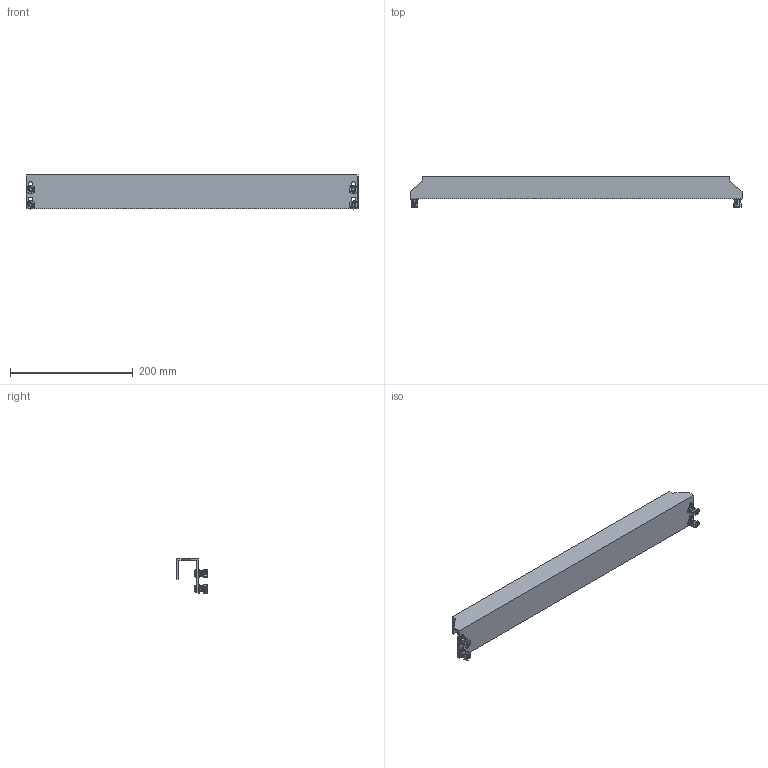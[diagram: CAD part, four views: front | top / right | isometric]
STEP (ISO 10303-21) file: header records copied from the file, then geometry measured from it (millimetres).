
FILE_DESCRIPTION(('Open CASCADE Model'),'2;1');
FILE_NAME('Open CASCADE Shape Model','2025-02-20T14:06:08',('Author'),( 'Open CASCADE'),'Open CASCADE STEP processor 7.8','Open CASCADE 7.8' ,'Unknown');
FILE_SCHEMA(('AUTOMOTIVE_DESIGN { 1 0 10303 214 1 1 1 1 }'));
Length unit declared in the file: millimetre
Products named in the file (4): Compound1; Solid1; Solid2; Solid3
Assembly tree (9 placements, depth 2):
  Compound1
    Solid1
    Solid2  x4
    Solid3  x4
Bounding box: 540 x 50 x 55.58 mm (x, y, z)
Volume: 181439.7 mm3; surface area: 132474.4 mm2
Topology: 13 solids, 13 shells, 862 faces, 2264 edges, 1420 vertices
Faces by surface type: plane 392, cylinder 202, bspline 168, torus 56, cone 40, sphere 4
Full cylindrical faces by diameter (mm): 6 x4, 6.5 x4, 8.3 x4, 12 x4
Entity records: 13070 total; most frequent: CARTESIAN_POINT 5546, ORIENTED_EDGE 1634, DIRECTION 1420, EDGE_CURVE 817, VERTEX_POINT 523, AXIS2_PLACEMENT_3D 488, LINE 444, VECTOR 444
